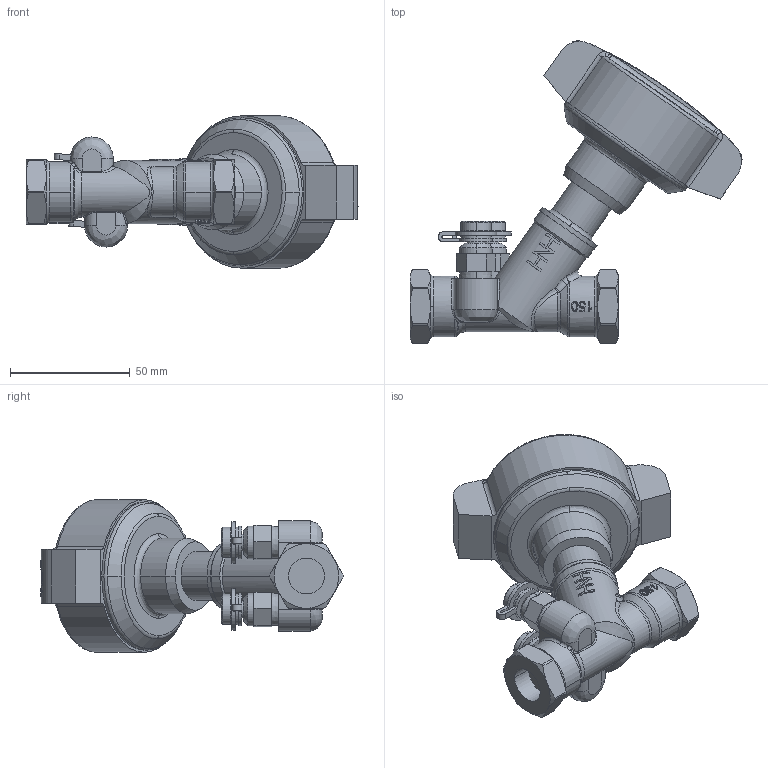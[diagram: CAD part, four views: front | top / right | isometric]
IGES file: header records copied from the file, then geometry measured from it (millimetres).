
Global section: file name: No Iges File Name specified; native system: AutoDesk Inventor R12.0; preprocessor: AutoDesk Inventor Iges Exporter R12.0; date: 20110307.114309; units: millimetre
Bounding box: 138.78 x 126.41 x 63.85 mm (x, y, z)
Volume: 206102 mm3; surface area: 33287.8 mm2
Topology: 1 solids, 1 shells, 714 faces, 1854 edges, 1208 vertices
Faces by surface type: plane 323, bspline 224, cylinder 100, cone 37, revolution 22, torus 8
